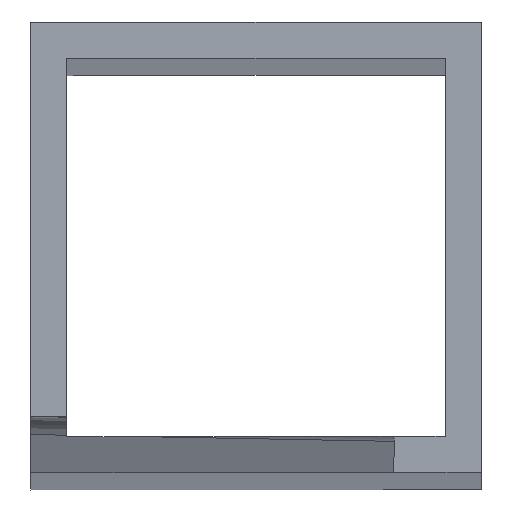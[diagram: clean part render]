
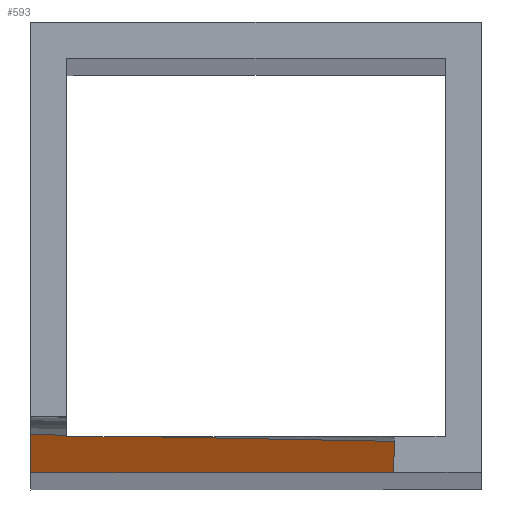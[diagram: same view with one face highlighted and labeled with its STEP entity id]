
A CAD part, top view. The second image highlights one B-rep face of the part: STEP entity #593.
In plain terms, the highlighted planar face has unit normal (-0.573, 0.011, 0.819).
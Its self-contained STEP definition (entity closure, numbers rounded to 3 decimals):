
#32 = PLANE('',#33);
#33 = AXIS2_PLACEMENT_3D('',#34,#35,#36);
#34 = CARTESIAN_POINT('',(-25.,-25.,-25.));
#35 = DIRECTION('',(0.,1.,0.));
#36 = DIRECTION('',(1.,0.,0.));
#55 = VERTEX_POINT('',#56);
#56 = CARTESIAN_POINT('',(-25.,-25.,1073.08));
#70 = PLANE('',#71);
#71 = AXIS2_PLACEMENT_3D('',#72,#73,#74);
#72 = CARTESIAN_POINT('',(-25.,25.,-25.));
#73 = DIRECTION('',(1.,0.,-0.));
#74 = DIRECTION('',(0.,-1.,0.));
#82 = EDGE_CURVE('',#55,#83,#85,.T.);
#83 = VERTEX_POINT('',#84);
#84 = CARTESIAN_POINT('',(15.285,-25.,1101.268));
#85 = SURFACE_CURVE('',#86,(#90,#96),.PCURVE_S1.);
#86 = LINE('',#87,#88);
#87 = CARTESIAN_POINT('',(-1295.563,-25.,184.042));
#88 = VECTOR('',#89,1.);
#89 = DIRECTION('',(0.819,-0.,0.573));
#90 = PCURVE('',#32,#91);
#91 = DEFINITIONAL_REPRESENTATION('',(#92),#95);
#92 = B_SPLINE_CURVE_WITH_KNOTS('',1,(#93,#94),.UNSPECIFIED.,.F.,.F.,(2,
    2),(1550.715,1599.883),.PIECEWISE_BEZIER_KNOTS.);
#93 = CARTESIAN_POINT('',(0.,-1098.08));
#94 = CARTESIAN_POINT('',(40.285,-1126.268));
#95 = ( GEOMETRIC_REPRESENTATION_CONTEXT(2) 
PARAMETRIC_REPRESENTATION_CONTEXT() REPRESENTATION_CONTEXT('2D SPACE',''
  ) );
#96 = PCURVE('',#97,#102);
#97 = PLANE('',#98);
#98 = AXIS2_PLACEMENT_3D('',#99,#100,#101);
#99 = CARTESIAN_POINT('',(-2050.288,-20.248,
    -344.121));
#100 = DIRECTION('',(-0.573,0.011,0.819)
  );
#101 = DIRECTION('',(0.02,1.,0.)
  );
#102 = DEFINITIONAL_REPRESENTATION('',(#103),#106);
#103 = B_SPLINE_CURVE_WITH_KNOTS('',1,(#104,#105),.UNSPECIFIED.,.F.,.F.,
  (2,2),(1550.715,1599.883),
  .PIECEWISE_BEZIER_KNOTS.);
#104 = CARTESIAN_POINT('',(35.747,-2471.638));
#105 = CARTESIAN_POINT('',(36.552,-2520.8));
#106 = ( GEOMETRIC_REPRESENTATION_CONTEXT(2) 
PARAMETRIC_REPRESENTATION_CONTEXT() REPRESENTATION_CONTEXT('2D SPACE',''
  ) );
#123 = PLANE('',#124);
#124 = AXIS2_PLACEMENT_3D('',#125,#126,#127);
#125 = CARTESIAN_POINT('',(-0.,-0.,1101.268));
#126 = DIRECTION('',(0.,0.,-1.));
#127 = DIRECTION('',(-1.,0.,-0.));
#249 = PLANE('',#250);
#250 = AXIS2_PLACEMENT_3D('',#251,#252,#253);
#251 = CARTESIAN_POINT('',(-21.,-21.,-25.));
#252 = DIRECTION('',(0.,1.,0.));
#253 = DIRECTION('',(1.,0.,0.));
#275 = PLANE('',#276);
#276 = AXIS2_PLACEMENT_3D('',#277,#278,#279);
#277 = CARTESIAN_POINT('',(-21.,21.,-25.));
#278 = DIRECTION('',(1.,0.,-0.));
#279 = DIRECTION('',(0.,-1.,0.));
#409 = EDGE_CURVE('',#83,#410,#412,.T.);
#410 = VERTEX_POINT('',#411);
#411 = CARTESIAN_POINT('',(15.354,-21.553,
    1101.268));
#412 = SURFACE_CURVE('',#413,(#417,#423),.PCURVE_S1.);
#413 = LINE('',#414,#415);
#414 = CARTESIAN_POINT('',(15.167,-30.93,
    1101.268));
#415 = VECTOR('',#416,1.);
#416 = DIRECTION('',(0.02,1.,0.));
#417 = PCURVE('',#123,#418);
#418 = DEFINITIONAL_REPRESENTATION('',(#419),#422);
#419 = B_SPLINE_CURVE_WITH_KNOTS('',1,(#420,#421),.UNSPECIFIED.,.F.,.F.,
  (2,2),(5.932,9.379),.PIECEWISE_BEZIER_KNOTS.);
#420 = CARTESIAN_POINT('',(-15.285,-25.));
#421 = CARTESIAN_POINT('',(-15.354,-21.553));
#422 = ( GEOMETRIC_REPRESENTATION_CONTEXT(2) 
PARAMETRIC_REPRESENTATION_CONTEXT() REPRESENTATION_CONTEXT('2D SPACE',''
  ) );
#423 = PCURVE('',#97,#424);
#424 = DEFINITIONAL_REPRESENTATION('',(#425),#428);
#425 = B_SPLINE_CURVE_WITH_KNOTS('',1,(#426,#427),.UNSPECIFIED.,.F.,.F.,
  (2,2),(5.932,9.379),.PIECEWISE_BEZIER_KNOTS.);
#426 = CARTESIAN_POINT('',(36.552,-2520.8));
#427 = CARTESIAN_POINT('',(40.,-2520.8));
#428 = ( GEOMETRIC_REPRESENTATION_CONTEXT(2) 
PARAMETRIC_REPRESENTATION_CONTEXT() REPRESENTATION_CONTEXT('2D SPACE',''
  ) );
#447 = CYLINDRICAL_SURFACE('',#448,2.);
#448 = AXIS2_PLACEMENT_3D('',#449,#450,#451);
#449 = CARTESIAN_POINT('',(-2050.635,19.767,
    -342.483));
#450 = DIRECTION('',(0.819,-0.016,0.573)
  );
#451 = DIRECTION('',(-0.02,-1.,
    0.));
#593 = ADVANCED_FACE('',(#594),#97,.T.);
#594 = FACE_BOUND('',#595,.T.);
#595 = EDGE_LOOP('',(#596,#626,#645,#646,#647,#670,#691));
#596 = ORIENTED_EDGE('',*,*,#597,.F.);
#597 = EDGE_CURVE('',#598,#600,#602,.T.);
#598 = VERTEX_POINT('',#599);
#599 = CARTESIAN_POINT('',(-25.,-20.746,1073.02));
#600 = VERTEX_POINT('',#601);
#601 = CARTESIAN_POINT('',(-21.,-20.826,1075.82));
#602 = SURFACE_CURVE('',#603,(#607,#614),.PCURVE_S1.);
#603 = LINE('',#604,#605);
#604 = CARTESIAN_POINT('',(-2049.488,19.744,
    -344.121));
#605 = VECTOR('',#606,1.);
#606 = DIRECTION('',(0.819,-0.016,0.573)
  );
#607 = PCURVE('',#97,#608);
#608 = DEFINITIONAL_REPRESENTATION('',(#609),#613);
#609 = LINE('',#610,#611);
#610 = CARTESIAN_POINT('',(40.,0.));
#611 = VECTOR('',#612,1.);
#612 = DIRECTION('',(0.,-1.));
#613 = ( GEOMETRIC_REPRESENTATION_CONTEXT(2) 
PARAMETRIC_REPRESENTATION_CONTEXT() REPRESENTATION_CONTEXT('2D SPACE',''
  ) );
#614 = PCURVE('',#615,#620);
#615 = CYLINDRICAL_SURFACE('',#616,2.);
#616 = AXIS2_PLACEMENT_3D('',#617,#618,#619);
#617 = CARTESIAN_POINT('',(-2050.635,19.767,
    -342.483));
#618 = DIRECTION('',(0.819,-0.016,0.573)
  );
#619 = DIRECTION('',(-0.02,-1.,
    0.));
#620 = DEFINITIONAL_REPRESENTATION('',(#621),#625);
#621 = LINE('',#622,#623);
#622 = CARTESIAN_POINT('',(1.571,0.));
#623 = VECTOR('',#624,1.);
#624 = DIRECTION('',(0.,1.));
#625 = ( GEOMETRIC_REPRESENTATION_CONTEXT(2) 
PARAMETRIC_REPRESENTATION_CONTEXT() REPRESENTATION_CONTEXT('2D SPACE',''
  ) );
#626 = ORIENTED_EDGE('',*,*,#627,.T.);
#627 = EDGE_CURVE('',#598,#55,#628,.T.);
#628 = SURFACE_CURVE('',#629,(#633,#639),.PCURVE_S1.);
#629 = LINE('',#630,#631);
#630 = CARTESIAN_POINT('',(-25.,19.967,1072.451));
#631 = VECTOR('',#632,1.);
#632 = DIRECTION('',(0.,-1.,0.014));
#633 = PCURVE('',#97,#634);
#634 = DEFINITIONAL_REPRESENTATION('',(#635),#638);
#635 = B_SPLINE_CURVE_WITH_KNOTS('',1,(#636,#637),.UNSPECIFIED.,.F.,.F.,
  (2,2),(40.717,44.971),.PIECEWISE_BEZIER_KNOTS.);
#636 = CARTESIAN_POINT('',(40.,-2471.534));
#637 = CARTESIAN_POINT('',(35.747,-2471.638));
#638 = ( GEOMETRIC_REPRESENTATION_CONTEXT(2) 
PARAMETRIC_REPRESENTATION_CONTEXT() REPRESENTATION_CONTEXT('2D SPACE',''
  ) );
#639 = PCURVE('',#70,#640);
#640 = DEFINITIONAL_REPRESENTATION('',(#641),#644);
#641 = B_SPLINE_CURVE_WITH_KNOTS('',1,(#642,#643),.UNSPECIFIED.,.F.,.F.,
  (2,2),(40.717,44.971),.PIECEWISE_BEZIER_KNOTS.);
#642 = CARTESIAN_POINT('',(45.746,-1098.02));
#643 = CARTESIAN_POINT('',(50.,-1098.08));
#644 = ( GEOMETRIC_REPRESENTATION_CONTEXT(2) 
PARAMETRIC_REPRESENTATION_CONTEXT() REPRESENTATION_CONTEXT('2D SPACE',''
  ) );
#645 = ORIENTED_EDGE('',*,*,#82,.T.);
#646 = ORIENTED_EDGE('',*,*,#409,.T.);
#647 = ORIENTED_EDGE('',*,*,#648,.F.);
#648 = EDGE_CURVE('',#649,#410,#651,.T.);
#649 = VERTEX_POINT('',#650);
#650 = CARTESIAN_POINT('',(-12.3,-21.,1081.91));
#651 = SURFACE_CURVE('',#652,(#656,#663),.PCURVE_S1.);
#652 = LINE('',#653,#654);
#653 = CARTESIAN_POINT('',(-2049.488,19.744,
    -344.121));
#654 = VECTOR('',#655,1.);
#655 = DIRECTION('',(0.819,-0.016,0.573)
  );
#656 = PCURVE('',#97,#657);
#657 = DEFINITIONAL_REPRESENTATION('',(#658),#662);
#658 = LINE('',#659,#660);
#659 = CARTESIAN_POINT('',(40.,0.));
#660 = VECTOR('',#661,1.);
#661 = DIRECTION('',(0.,-1.));
#662 = ( GEOMETRIC_REPRESENTATION_CONTEXT(2) 
PARAMETRIC_REPRESENTATION_CONTEXT() REPRESENTATION_CONTEXT('2D SPACE',''
  ) );
#663 = PCURVE('',#447,#664);
#664 = DEFINITIONAL_REPRESENTATION('',(#665),#669);
#665 = LINE('',#666,#667);
#666 = CARTESIAN_POINT('',(1.571,0.));
#667 = VECTOR('',#668,1.);
#668 = DIRECTION('',(0.,1.));
#669 = ( GEOMETRIC_REPRESENTATION_CONTEXT(2) 
PARAMETRIC_REPRESENTATION_CONTEXT() REPRESENTATION_CONTEXT('2D SPACE',''
  ) );
#670 = ORIENTED_EDGE('',*,*,#671,.F.);
#671 = EDGE_CURVE('',#672,#649,#674,.T.);
#672 = VERTEX_POINT('',#673);
#673 = CARTESIAN_POINT('',(-21.,-21.,1075.823));
#674 = SURFACE_CURVE('',#675,(#679,#685),.PCURVE_S1.);
#675 = LINE('',#676,#677);
#676 = CARTESIAN_POINT('',(-1294.194,-21.,184.944));
#677 = VECTOR('',#678,1.);
#678 = DIRECTION('',(0.819,-0.,0.573));
#679 = PCURVE('',#97,#680);
#680 = DEFINITIONAL_REPRESENTATION('',(#681),#684);
#681 = B_SPLINE_CURVE_WITH_KNOTS('',1,(#682,#683),.UNSPECIFIED.,.F.,.F.,
  (2,2),(1553.927,1564.545),
  .PIECEWISE_BEZIER_KNOTS.);
#682 = CARTESIAN_POINT('',(39.826,-2476.422));
#683 = CARTESIAN_POINT('',(40.,-2487.039));
#684 = ( GEOMETRIC_REPRESENTATION_CONTEXT(2) 
PARAMETRIC_REPRESENTATION_CONTEXT() REPRESENTATION_CONTEXT('2D SPACE',''
  ) );
#685 = PCURVE('',#249,#686);
#686 = DEFINITIONAL_REPRESENTATION('',(#687),#690);
#687 = B_SPLINE_CURVE_WITH_KNOTS('',1,(#688,#689),.UNSPECIFIED.,.F.,.F.,
  (2,2),(1553.927,1564.545),
  .PIECEWISE_BEZIER_KNOTS.);
#688 = CARTESIAN_POINT('',(0.,-1100.823));
#689 = CARTESIAN_POINT('',(8.7,-1106.91));
#690 = ( GEOMETRIC_REPRESENTATION_CONTEXT(2) 
PARAMETRIC_REPRESENTATION_CONTEXT() REPRESENTATION_CONTEXT('2D SPACE',''
  ) );
#691 = ORIENTED_EDGE('',*,*,#692,.F.);
#692 = EDGE_CURVE('',#600,#672,#693,.T.);
#693 = SURFACE_CURVE('',#694,(#698,#704),.PCURVE_S1.);
#694 = LINE('',#695,#696);
#695 = CARTESIAN_POINT('',(-21.,18.007,1075.277));
#696 = VECTOR('',#697,1.);
#697 = DIRECTION('',(0.,-1.,0.014));
#698 = PCURVE('',#97,#699);
#699 = DEFINITIONAL_REPRESENTATION('',(#700),#703);
#700 = B_SPLINE_CURVE_WITH_KNOTS('',1,(#701,#702),.UNSPECIFIED.,.F.,.F.,
  (2,2),(38.836,39.01),.PIECEWISE_BEZIER_KNOTS.);
#701 = CARTESIAN_POINT('',(40.,-2476.418));
#702 = CARTESIAN_POINT('',(39.826,-2476.422));
#703 = ( GEOMETRIC_REPRESENTATION_CONTEXT(2) 
PARAMETRIC_REPRESENTATION_CONTEXT() REPRESENTATION_CONTEXT('2D SPACE',''
  ) );
#704 = PCURVE('',#275,#705);
#705 = DEFINITIONAL_REPRESENTATION('',(#706),#709);
#706 = B_SPLINE_CURVE_WITH_KNOTS('',1,(#707,#708),.UNSPECIFIED.,.F.,.F.,
  (2,2),(38.836,39.01),.PIECEWISE_BEZIER_KNOTS.);
#707 = CARTESIAN_POINT('',(41.826,-1100.82));
#708 = CARTESIAN_POINT('',(42.,-1100.823));
#709 = ( GEOMETRIC_REPRESENTATION_CONTEXT(2) 
PARAMETRIC_REPRESENTATION_CONTEXT() REPRESENTATION_CONTEXT('2D SPACE',''
  ) );
